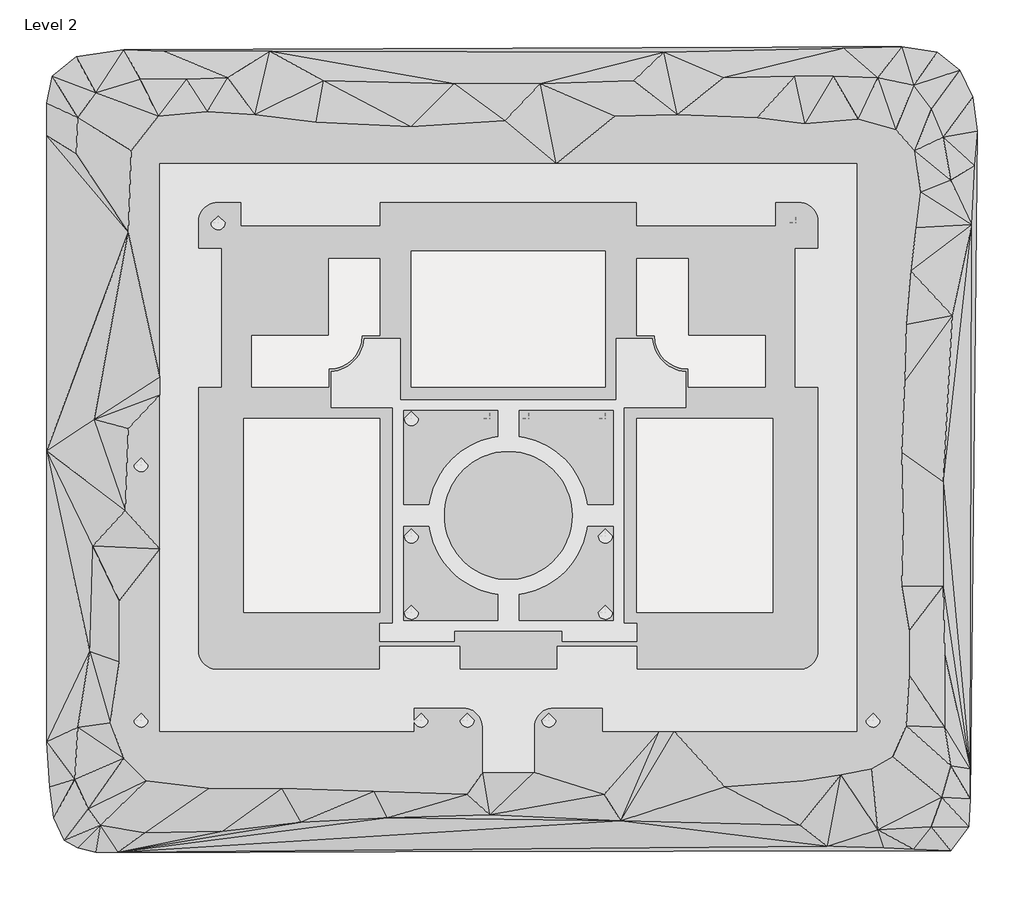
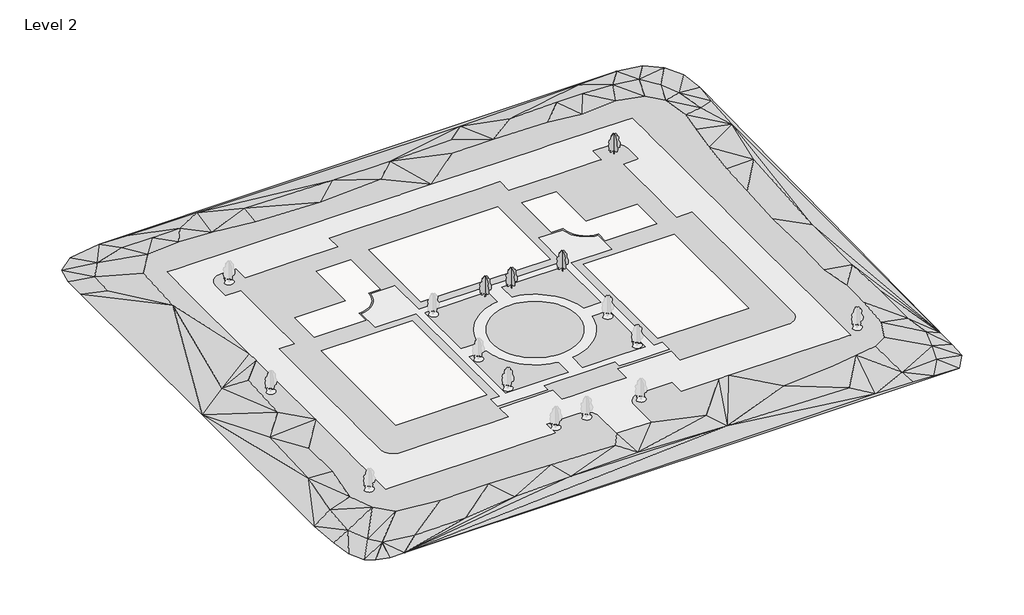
# One storey, part 2 of 2: 4 geographic elements, 1 proxy.
"""IFC4 building model written with IfcOpenShell, lengths in millimetres."""

from ifc_helpers import new_model, si_unit, origin, place, context, project, spatial, triangles, transform, mapped, element, save
from components import rpc_tree_deciduous_red_ash_25_14781bec

model = new_model("IFC4")

# Units and contexts
model_context = context("Model", 3, world=origin())
ifc_project = project(units=[si_unit("LENGTHUNIT", "METRE", prefix="MILLI")], contexts=[model_context])

# Site, building, storey
site = spatial("IfcSite", under=ifc_project)
building = spatial("IfcBuilding", under=site)
storey = spatial("IfcBuildingStorey", under=building, Name="Level 2", Elevation=3047.9999999)

# Proxy
placement = place(None, origin())
element("IfcBuildingElementProxy", 1, Name="Building Element Proxy", at=placement, inside=storey, context=model_context, shape_type="Tessellation", body=[
    triangles([(-199970.6219238, -770.6450392, 0.0), (-199970.6219238, -75600.9481934, 0.0), (-199970.6219238, -144783.6834961, 0.0), (-199264.6743164, -155372.8790039, 0.0), (-198205.762207, -162785.3195801, 0.0), (-195734.9362793, -168079.917334, 0.0), (-192558.1813477, -169844.7770508, 0.0), (-188322.5143066, -170903.6891602, 0.0), (-183027.9165527, -170903.6891602, 0.0), (14637.0472687, -170550.7246582, 0.0), (18872.7247742, -164903.1624023, 0.0), (19225.6974152, -158196.6694336, 0.0), (20990.5629456, 288.2743554, 0.0), (19931.6438599, 8406.6566345, 0.0), (16754.8854401, 14760.1734741, 0.0), (11460.2888489, 18995.8509796, 0.0), (2988.9332565, 20407.7427063, 0.0), (-181616.0213379, 19701.7974243, 0.0), (-192911.1644531, 17936.9307312, 0.0), (-198558.726709, 13348.2805847, 0.0), (-199970.6219238, 6994.7637451, 0.0), (-153151.1541504, -67955.1218628, 3048.0), (-120842.3541504, -67955.1218628, 3048.0), (-120842.3541504, -113979.9265137, 3048.0), (-140079.1613525, -113979.9265137, 3048.0), (-152049.379541, -113979.9265137, 3048.0), (-153151.1541504, -113979.9265137, 3048.0), (-153151.1541504, -113064.9684082, 3048.0), (-153151.1541504, -99875.92229, 3048.0), (-67349.9588013, -28178.7218628, 3048.0), (-67349.9588013, -60487.5218628, 3048.0), (-81900.5357666, -60487.5218628, 3048.0), (-94745.3238281, -60487.5218628, 3048.0), (-108258.9733887, -60487.5218628, 3048.0), (-113374.7541504, -60487.5218628, 3048.0), (-113374.7541504, -28178.7218628, 3048.0), (-110993.3460205, -28178.7218628, 3048.0), (-92962.2791748, -28178.7218628, 3048.0), (-86679.0999023, -28178.7218628, 3048.0), (-27573.5588013, -113979.9265137, 3048.0), (-30077.1524963, -113979.9265137, 3048.0), (-59882.3588013, -113979.9265137, 3048.0), (-59882.3588013, -67955.1218628, 3048.0), (-27573.5588013, -67955.1218628, 3048.0), (-27573.5588013, -111100.790625, 3048.0), (-120842.3541504, -30007.5218628, 3048.0), (-120842.3541504, -48295.5218628, 3048.0), (-125109.5541504, -48295.5218628, 3048.0), (-125159.383667, -49182.8165405, 3048.0), (-125308.248999, -50058.9537598, 3048.0), (-125554.2711914, -50912.9155884, 3048.0), (-125894.3620605, -51733.963147, 3048.0), (-126324.2334961, -52511.7714844, 3048.0), (-126838.4997803, -53236.5551514, 3048.0), (-127430.6775879, -53899.2030762, 3048.0), (-128093.3255127, -54491.3808838, 3048.0), (-128818.1091797, -55005.6425171, 3048.0), (-129595.9128662, -55435.5186035, 3048.0), (-130416.9604248, -55775.6094727, 3048.0), (-131270.9269043, -56021.631665, 3048.0), (-132147.0594727, -56170.4923462, 3048.0), (-133034.3541504, -56220.3218628, 3048.0), (-133034.3541504, -60487.5218628, 3048.0), (-151322.3541504, -60487.5218628, 3048.0), (-151322.3541504, -48295.5218628, 3048.0), (-133034.3541504, -48295.5218628, 3048.0), (-133034.3541504, -30007.5218628, 3048.0), (-59882.3588013, -30007.5218628, 3048.0), (-52023.1268921, -30007.5218628, 3048.0), (-47690.3588013, -30007.5218628, 3048.0), (-47690.3588013, -33626.2753967, 3048.0), (-47690.3588013, -48295.5218628, 3048.0), (-30126.7308655, -48295.5218628, 3048.0), (-29402.3588013, -48295.5218628, 3048.0), (-29402.3588013, -48900.5221436, 3048.0), (-29402.3588013, -60487.5218628, 3048.0), (-47690.3588013, -60487.5218628, 3048.0), (-47690.3588013, -56220.3218628, 3048.0), (-48577.653479, -56170.4923462, 3048.0), (-49453.7906982, -56021.631665, 3048.0), (-50307.7525269, -55775.6094727, 3048.0), (-51128.8000854, -55435.5186035, 3048.0), (-51906.603772, -55005.6425171, 3048.0), (-52631.3920898, -54491.3808838, 3048.0), (-53294.0400146, -53899.2030762, 3048.0), (-53886.2178223, -53236.5551514, 3048.0), (-54400.4794556, -52511.7714844, 3048.0), (-54830.355542, -51733.963147, 3048.0), (-55170.4464111, -50912.9155884, 3048.0), (-55416.4686035, -50058.9537598, 3048.0), (-55565.3292847, -49182.8165405, 3048.0), (-55615.1588013, -48295.5218628, 3048.0), (-59882.3588013, -48295.5218628, 3048.0), (-115965.5541504, -63535.5218628, 3048.0), (-108001.017041, -63535.5218628, 3048.0), (-94913.5368164, -63535.5218628, 3048.0), (-81449.735376, -63535.5218628, 3048.0), (-64759.1588013, -63535.5218628, 3048.0), (-64759.1588013, -48905.1218628, 3048.0), (-56202.9601318, -48905.1218628, 3048.0), (-56096.6642944, -49768.622644, 3048.0), (-55903.0063477, -50616.8173828, 3048.0), (-55624.0001221, -51440.8880127, 3048.0), (-55262.5431152, -52232.2676147, 3048.0), (-54822.3978882, -52982.7380859, 3048.0), (-54308.131604, -53684.4999023, 3048.0), (-53725.0881226, -54330.255835, 3048.0), (-53079.3368408, -54913.2946655, 3048.0), (-52377.5750244, -55427.5609497, 3048.0), (-51627.1045532, -55867.7061768, 3048.0), (-50835.7249512, -56229.1631836, 3048.0), (-50011.6543213, -56508.1694092, 3048.0), (-49163.4595825, -56701.827356, 3048.0), (-48299.9588013, -56808.1231934, 3048.0), (-48299.9588013, -65364.3218628, 3048.0), (-62930.3588013, -65364.3218628, 3048.0), (-62930.3588013, -116570.7265137, 3048.0), (-59882.3588013, -116570.7265137, 3048.0), (-59882.3588013, -120837.9265137, 3048.0), (-72974.5410645, -120837.9265137, 3048.0), (-77560.7588013, -120837.9265137, 3048.0), (-77560.7588013, -118399.5265137, 3048.0), (-90362.3541504, -118399.5265137, 3048.0), (-97941.352002, -118399.5265137, 3048.0), (-103163.9541504, -118399.5265137, 3048.0), (-103163.9541504, -120689.163501, 3048.0), (-103163.9541504, -120837.9265137, 3048.0), (-120842.3541504, -120837.9265137, 3048.0), (-120842.3541504, -116570.7265137, 3048.0), (-117794.3541504, -116570.7265137, 3048.0), (-117794.3541504, -65364.3218628, 3048.0), (-132424.7541504, -65364.3218628, 3048.0), (-132424.7541504, -56808.1231934, 3048.0), (-131561.2533691, -56701.827356, 3048.0), (-130713.0632813, -56508.1694092, 3048.0), (-129888.9926514, -56229.1631836, 3048.0), (-129097.6083984, -55867.7061768, 3048.0), (-128347.1425781, -55427.5609497, 3048.0), (-127645.3807617, -54913.2946655, 3048.0), (-126999.6248291, -54330.255835, 3048.0), (-126416.5813477, -53684.4999023, 3048.0), (-125902.3150635, -52982.7380859, 3048.0), (-125462.1744873, -52232.2676147, 3048.0), (-125100.7174805, -51440.8880127, 3048.0), (-124821.7112549, -50616.8173828, 3048.0), (-124628.057959, -49768.622644, 3048.0), (-124521.7574707, -48905.1218628, 3048.0), (-115965.5541504, -48905.1218628, 3048.0), (-96458.3541504, -141259.5265137, 3048.0), (-96504.8908447, -140608.8592529, 3048.0), (-96643.5521484, -139971.4376953, 3048.0), (-96871.5196289, -139360.2470947, 3048.0), (-97184.1424072, -138787.7145996, 3048.0), (-97575.0673828, -138265.4953125, 3048.0), (-98036.332251, -137804.2304443, 3048.0), (-98558.5515381, -137413.3147705, 3048.0), (-98978.0329102, -137184.2496826, 3048.0), (-99131.0840332, -137100.6826904, 3048.0), (-99742.2746338, -136872.7245117, 3048.0), (-100379.6961914, -136734.0539063, 3048.0), (-101030.3541504, -136687.5265137, 3048.0), (-101809.9809814, -136687.5265137, 3048.0), (-112765.1541504, -136687.5265137, 3048.0), (-112765.1541504, -142173.9265137, 3048.0), (-113948.1331055, -142173.9265137, 3048.0), (-118098.4844238, -142173.9265137, 3048.0), (-134914.7603027, -142173.9265137, 3048.0), (-141364.1619873, -142173.9265137, 3048.0), (-155924.3616211, -142173.9265137, 3048.0), (-161579.2164551, -142173.9265137, 3048.0), (-171062.6189941, -142173.9265137, 3048.0), (-173115.5541504, -142173.9265137, 3048.0), (-173115.5541504, -139265.5924072, 3048.0), (-173115.5541504, -133177.6942383, 3048.0), (-173115.5541504, -122301.5302002, 3048.0), (-173115.5541504, -118406.8004883, 3048.0), (-173115.5541504, -98940.6863525, 3048.0), (-173115.5541504, -96485.831543, 3048.0), (-173115.5541504, -78335.3859375, 3048.0), (-173115.5541504, -62355.6543457, 3048.0), (-173115.5541504, -58140.023291, 3048.0), (-173115.5541504, -19343.470459, 3048.0), (-173115.5541504, -16797.6432953, 3048.0), (-173115.5541504, -12340.9792786, 3048.0), (-173115.5541504, -7452.3218628, 3048.0), (-169916.8098633, -7452.3218628, 3048.0), (-163060.4655762, -7452.3218628, 3048.0), (-152868.4644287, -7452.3218628, 3048.0), (-142112.3953857, -7452.3218628, 3048.0), (-121728.1977539, -7452.3218628, 3048.0), (-112747.4808105, -7452.3218628, 3048.0), (-91818.4420166, -7452.3218628, 3048.0), (-90362.3541504, -7452.3218628, 3048.0), (-89744.5965088, -7452.3218628, 3048.0), (-79028.6831543, -7452.3218628, 3048.0), (-55510.2210205, -7452.3218628, 3048.0), (-52788.1732178, -7452.3218628, 3048.0), (-40375.0099731, -7452.3218628, 3048.0), (-37615.0575073, -7452.3218628, 3048.0), (-23395.2487244, -7452.3218628, 3048.0), (-20332.1054626, -7452.3218628, 3048.0), (-13137.2725342, -7452.3218628, 3048.0), (-9769.8966797, -7452.3218628, 3048.0), (-7609.1582199, -7452.3218628, 3048.0), (-7609.1582199, -9469.011557, 3048.0), (-7609.1582199, -15160.5374084, 3048.0), (-7609.1582199, -20175.2708496, 3048.0), (-7609.1582199, -29394.9894836, 3048.0), (-7609.1582199, -34925.2565735, 3048.0), (-7609.1582199, -45786.2285156, 3048.0), (-7609.1582199, -48692.6557617, 3048.0), (-7609.1582199, -63543.7213623, 3048.0), (-7609.1582199, -67102.3320557, 3048.0), (-7609.1582199, -88141.7269043, 3048.0), (-7609.1582199, -103111.0178467, 3048.0), (-7609.1582199, -109311.1696289, 3048.0), (-7609.1582199, -119744.5513916, 3048.0), (-7609.1582199, -128757.108252, 3048.0), (-7609.1582199, -135897.4445068, 3048.0), (-7609.1582199, -141262.8472412, 3048.0), (-7609.1582199, -142173.9265137, 3048.0), (-8520.228772, -142173.9265137, 3048.0), (-12021.3371613, -142173.9265137, 3048.0), (-14368.7717834, -142173.9265137, 3048.0), (-27380.2333923, -142173.9265137, 3048.0), (-30015.5818359, -142173.9265137, 3048.0), (-50988.4086548, -142173.9265137, 3048.0), (-54593.6723145, -142173.9265137, 3048.0), (-67959.5588013, -142173.9265137, 3048.0), (-67959.5588013, -136687.5265137, 3048.0), (-70630.3399658, -136687.5265137, 3048.0), (-79694.3541504, -136687.5265137, 3048.0), (-80345.0214111, -136734.0539063, 3048.0), (-80982.4429688, -136872.7245117, 3048.0), (-81593.6335693, -137100.6826904, 3048.0), (-82166.1660645, -137413.3147705, 3048.0), (-82688.3853516, -137804.2304443, 3048.0), (-83149.640918, -138265.4953125, 3048.0), (-83540.5658936, -138787.7145996, 3048.0), (-83853.1979736, -139360.2470947, 3048.0), (-84081.1561523, -139971.4376953, 3048.0), (-84219.8174561, -140608.8592529, 3048.0), (-84266.3541504, -141259.5265137, 3048.0), (-84266.3541504, -151927.5265137, 3048.0), (-90362.3541504, -151927.5265137, 3048.0), (-96458.3541504, -151927.5265137, 3048.0), (-120842.3541504, -16596.3218628, 3048.0), (-120842.3541504, -22082.7218628, 3048.0), (-135421.6781982, -22082.7218628, 3048.0), (-151061.086377, -22082.7218628, 3048.0), (-153760.7541504, -22082.7218628, 3048.0), (-153760.7541504, -16596.3218628, 3048.0), (-159399.5541504, -16596.3218628, 3048.0), (-160050.2307129, -16642.8585571, 3048.0), (-160687.6429688, -16781.5198608, 3048.0), (-161298.8428711, -17009.4838531, 3048.0), (-161871.3660645, -17322.1112823, 3048.0), (-162393.5853516, -17713.0350952, 3048.0), (-162854.840918, -18174.2988007, 3048.0), (-163245.7751953, -18696.5122742, 3048.0), (-163558.3886719, -19269.0447693, 3048.0), (-163786.3561523, -19880.2400208, 3048.0), (-163925.0267578, -20517.6592529, 3048.0), (-163971.5541504, -21168.3218628, 3048.0), (-163971.5541504, -27569.1218628, 3048.0), (-158485.1541504, -27569.1218628, 3048.0), (-158485.1541504, -34220.483313, 3048.0), (-158485.1541504, -46724.2270752, 3048.0), (-158485.1541504, -60487.5218628, 3048.0), (-163971.5541504, -60487.5218628, 3048.0), (-163971.5541504, -88201.2767578, 3048.0), (-163971.5541504, -104079.330835, 3048.0), (-163971.5541504, -109289.2825928, 3048.0), (-163971.5541504, -122971.5265137, 3048.0), (-163925.0267578, -123622.1844727, 3048.0), (-163786.3561523, -124259.6060303, 3048.0), (-163558.3886719, -124870.7966309, 3048.0), (-163245.7751953, -125443.329126, 3048.0), (-162854.840918, -125965.5484131, 3048.0), (-162393.5853516, -126426.8132813, 3048.0), (-161871.3660645, -126817.7289551, 3048.0), (-161298.8428711, -127130.3610352, 3048.0), (-160687.6429688, -127358.3192139, 3048.0), (-160050.2307129, -127496.9898193, 3048.0), (-159399.5541504, -127543.5265137, 3048.0), (-147842.1479736, -127543.5265137, 3048.0), (-135716.2462646, -127543.5265137, 3048.0), (-127508.0124023, -127543.5265137, 3048.0), (-120842.3541504, -127543.5265137, 3048.0), (-120842.3541504, -122057.1265137, 3048.0), (-103048.1844727, -122057.1265137, 3048.0), (-101944.7541504, -122057.1265137, 3048.0), (-101944.7541504, -127543.5265137, 3048.0), (-98445.9909668, -127543.5265137, 3048.0), (-90362.3541504, -127543.5265137, 3048.0), (-78779.9541504, -127543.5265137, 3048.0), (-78779.9541504, -122057.1265137, 3048.0), (-72794.2171875, -122057.1265137, 3048.0), (-59882.3588013, -122057.1265137, 3048.0), (-59882.3588013, -127543.5265137, 3048.0), (-41871.5883911, -127543.5265137, 3048.0), (-34741.3910522, -127543.5265137, 3048.0), (-21325.1588013, -127543.5265137, 3048.0), (-20674.493866, -127496.9898193, 3048.0), (-20037.0769592, -127358.3192139, 3048.0), (-19872.0754028, -127296.7787842, 3048.0), (-19425.880545, -127130.3610352, 3048.0), (-18853.3480499, -126817.7289551, 3048.0), (-18331.1345764, -126426.8132813, 3048.0), (-17869.870871, -125965.5484131, 3048.0), (-17478.9470581, -125443.329126, 3048.0), (-17166.3207916, -124870.7966309, 3048.0), (-16938.3556366, -124259.6060303, 3048.0), (-16799.6943329, -123622.1844727, 3048.0), (-16753.1576385, -122971.5265137, 3048.0), (-16753.1576385, -122722.3696289, 3048.0), (-16753.1576385, -111345.1664063, 3048.0), (-16753.1576385, -98657.3269043, 3048.0), (-16753.1576385, -60487.5218628, 3048.0), (-22239.5588013, -60487.5218628, 3048.0), (-22239.5588013, -54882.9383789, 3048.0), (-22239.5588013, -46411.753125, 3048.0), (-22239.5588013, -35337.7267456, 3048.0), (-22239.5588013, -28669.615155, 3048.0), (-22239.5588013, -27569.1218628, 3048.0), (-16753.1576385, -27569.1218628, 3048.0), (-16753.1576385, -26553.1513184, 3048.0), (-16753.1576385, -21168.3218628, 3048.0), (-16799.6943329, -20517.6592529, 3048.0), (-16938.3556366, -19880.2400208, 3048.0), (-17166.3207916, -19269.0447693, 3048.0), (-17478.9470581, -18696.5122742, 3048.0), (-17869.870871, -18174.2988007, 3048.0), (-18331.1345764, -17713.0350952, 3048.0), (-18853.3480499, -17322.1112823, 3048.0), (-19425.880545, -17009.4838531, 3048.0), (-20037.0769592, -16781.5198608, 3048.0), (-20674.493866, -16642.8585571, 3048.0), (-21325.1588013, -16596.3218628, 3048.0), (-26963.9588013, -16596.3218628, 3048.0), (-26963.9588013, -17204.3033569, 3048.0), (-26963.9588013, -22082.7218628, 3048.0), (-27869.6965393, -22082.7218628, 3048.0), (-36760.488739, -22082.7218628, 3048.0), (-43016.1185303, -22082.7218628, 3048.0), (-59882.3588013, -22082.7218628, 3048.0), (-59882.3588013, -16596.3218628, 3048.0), (-68080.4816528, -16596.3218628, 3048.0), (-88392.1767334, -16596.3218628, 3048.0), (-92323.0716797, -16596.3218628, 3048.0), (-111973.5931641, -16596.3218628, 3048.0), (-92800.7541504, -65973.9218628, 3048.0), (-95048.1053467, -65973.9218628, 3048.0), (-107794.6482422, -65973.9218628, 3048.0), (-115355.9541504, -65973.9218628, 3048.0), (-115355.9541504, -88529.1265137, 3048.0), (-109101.9823975, -88529.1265137, 3048.0), (-108874.6474365, -87170.8838379, 3048.0), (-108549.0021973, -85832.807373, 3048.0), (-108126.7768066, -84522.0036621, 3048.0), (-107610.2129883, -83245.4211182, 3048.0), (-107002.0547607, -82009.8500244, 3048.0), (-106508.6988281, -81168.3851074, 3048.0), (-106305.529834, -80821.8574219, 3048.0), (-105524.3403076, -79687.7312988, 3048.0), (-104662.6254639, -78613.5177979, 3048.0), (-103724.9803711, -77604.900293, 3048.0), (-102716.3628662, -76667.2505493, 3048.0), (-101642.1493652, -75805.5403564, 3048.0), (-100508.0232422, -75024.3508301, 3048.0), (-99320.0213379, -74327.8259033, 3048.0), (-98084.4595459, -73719.6676758, 3048.0), (-96807.877002, -73203.1038574, 3048.0), (-95497.073291, -72780.8784668, 3048.0), (-95422.7708496, -72762.7958496, 3048.0), (-94158.9968262, -72455.2332275, 3048.0), (-92800.7541504, -72227.8982666, 3048.0), (-92800.7541504, -115961.1265137, 3048.0), (-92800.7541504, -109707.145459, 3048.0), (-94158.9968262, -109479.810498, 3048.0), (-95497.073291, -109154.1652588, 3048.0), (-96807.877002, -108731.9398682, 3048.0), (-97394.7156006, -108494.475293, 3048.0), (-98084.4595459, -108215.3760498, 3048.0), (-99320.0213379, -107607.2178223, 3048.0), (-100508.0232422, -106910.6928955, 3048.0), (-101642.1493652, -106129.5033691, 3048.0), (-102716.3628662, -105267.7978271, 3048.0), (-103724.9803711, -104330.1434326, 3048.0), (-104630.9436768, -103355.6168701, 3048.0), (-104662.6254639, -103321.5259277, 3048.0), (-105524.3403076, -102247.3124268, 3048.0), (-106305.529834, -101113.1863037, 3048.0), (-107002.0547607, -99925.1937012, 3048.0), (-107610.2129883, -98689.6226074, 3048.0), (-108126.7768066, -97413.0400635, 3048.0), (-108549.0021973, -96102.2363525, 3048.0), (-108874.6474365, -94764.1598877, 3048.0), (-109101.9823975, -93405.9265137, 3048.0), (-115355.9541504, -93405.9265137, 3048.0), (-115355.9541504, -115961.1265137, 3048.0), (-103564.1064697, -115961.1265137, 3048.0), (-97806.7834717, -115961.1265137, 3048.0), (-105602.3541504, -90967.5265137, 3048.0), (-105552.9432129, -92193.8330566, 3048.0), (-105405.0080566, -93412.1865967, 3048.0), (-105159.5067627, -94614.6899414, 3048.0), (-104818.0578369, -95793.538916, 3048.0), (-104382.8471924, -96941.0967773, 3048.0), (-103856.7118652, -98049.9035156, 3048.0), (-103243.0562988, -99112.7781738, 3048.0), (-102545.8616455, -100122.8374512, 3048.0), (-101769.6578613, -101073.5143066, 3048.0), (-100919.4771973, -101958.6509766, 3048.0), (-100000.8262939, -102772.4989746, 3048.0), (-99019.6675781, -103509.7935059, 3048.0), (-97982.3541504, -104165.7534668, 3048.0), (-97179.0915527, -104587.3370361, 3048.0), (-96895.6297852, -104736.1093506, 3048.0), (-95766.5359131, -105217.1683594, 3048.0), (-94602.3930176, -105605.8144043, 3048.0), (-93410.754126, -105899.5360107, 3048.0), (-92199.3396973, -106096.4077148, 3048.0), (-90976.0097168, -106195.1644775, 3048.0), (-89748.7078857, -106195.1644775, 3048.0), (-88525.3779053, -106096.4077148, 3048.0), (-87313.9634766, -105899.5360107, 3048.0), (-86122.324585, -105605.8144043, 3048.0), (-84958.1816895, -105217.1683594, 3048.0), (-83829.0878174, -104736.1093506, 3048.0), (-82742.3541504, -104165.7534668, 3048.0), (-81705.0500244, -103509.7935059, 3048.0), (-80723.8913086, -102772.4989746, 3048.0), (-79805.2404053, -101958.6509766, 3048.0), (-78955.0504395, -101073.5143066, 3048.0), (-78178.8466553, -100122.8374512, 3048.0), (-77481.6613037, -99112.7781738, 3048.0), (-76868.0103882, -98049.9035156, 3048.0), (-76469.2486816, -97209.5362061, 3048.0), (-76341.8704102, -96941.0967773, 3048.0), (-75906.6644165, -95793.538916, 3048.0), (-75565.206189, -94614.6899414, 3048.0), (-75319.7141968, -93412.1865967, 3048.0), (-75171.7743896, -92193.8330566, 3048.0), (-75122.3588013, -90967.5265137, 3048.0), (-75171.7743896, -89741.2106689, 3048.0), (-75319.7141968, -88522.8571289, 3048.0), (-75565.206189, -87320.3537842, 3048.0), (-75906.6644165, -86141.5048096, 3048.0), (-76341.8704102, -84993.9469482, 3048.0), (-76868.0103882, -83885.14021, 3048.0), (-77481.6613037, -82822.2655518, 3048.0), (-78178.8466553, -81812.2062744, 3048.0), (-78872.1438721, -80963.076709, 3048.0), (-78955.0504395, -80861.5294189, 3048.0), (-79805.2404053, -79976.392749, 3048.0), (-80723.8913086, -79162.544751, 3048.0), (-81705.0500244, -78425.2502197, 3048.0), (-82742.3541504, -77769.2949097, 3048.0), (-83829.0878174, -77198.9390259, 3048.0), (-84958.1816895, -76717.8753662, 3048.0), (-86122.324585, -76329.2246704, 3048.0), (-87313.9634766, -76035.5123657, 3048.0), (-88525.3779053, -75838.6406616, 3048.0), (-89748.7078857, -75739.879248, 3048.0), (-90976.0097168, -75739.879248, 3048.0), (-92199.3396973, -75838.6406616, 3048.0), (-93410.754126, -76035.5123657, 3048.0), (-94602.3930176, -76329.2246704, 3048.0), (-95638.683252, -76675.1895996, 3048.0), (-95766.5359131, -76717.8753662, 3048.0), (-96895.6297852, -77198.9390259, 3048.0), (-97982.3541504, -77769.2949097, 3048.0), (-99019.6675781, -78425.2502197, 3048.0), (-100000.8262939, -79162.544751, 3048.0), (-100919.4771973, -79976.392749, 3048.0), (-101769.6578613, -80861.5294189, 3048.0), (-102545.8616455, -81812.2062744, 3048.0), (-103243.0562988, -82822.2655518, 3048.0), (-103856.7118652, -83885.14021, 3048.0), (-104382.8471924, -84993.9469482, 3048.0), (-104818.0578369, -86141.5048096, 3048.0), (-105159.5067627, -87320.3537842, 3048.0), (-105405.0080566, -88522.8571289, 3048.0), (-105552.9432129, -89741.2106689, 3048.0), (-87923.9541504, -65973.9218628, 3048.0), (-87923.9541504, -72227.8982666, 3048.0), (-86565.7207764, -72455.2332275, 3048.0), (-85227.6443115, -72780.8784668, 3048.0), (-83916.8406006, -73203.1038574, 3048.0), (-82640.2580566, -73719.6676758, 3048.0), (-81404.6869629, -74327.8259033, 3048.0), (-80216.6943604, -75024.3508301, 3048.0), (-79697.6190674, -75381.8917969, 3048.0), (-79082.5682373, -75805.5403564, 3048.0), (-78008.3500854, -76667.2505493, 3048.0), (-76999.7372314, -77604.900293, 3048.0), (-76062.0874878, -78613.5177979, 3048.0), (-75200.3772949, -79687.7312988, 3048.0), (-74419.1877686, -80821.8574219, 3048.0), (-73722.6628418, -82009.8500244, 3048.0), (-73114.5046143, -83245.4211182, 3048.0), (-72597.9407959, -84522.0036621, 3048.0), (-72175.7154053, -85832.807373, 3048.0), (-71850.070166, -87170.8838379, 3048.0), (-71622.7352051, -88529.1265137, 3048.0), (-65368.7588013, -88529.1265137, 3048.0), (-65368.7588013, -65973.9218628, 3048.0), (-81089.0876221, -65973.9218628, 3048.0), (-87923.9541504, -115961.1265137, 3048.0), (-73695.8365723, -115961.1265137, 3048.0), (-65368.7588013, -115961.1265137, 3048.0), (-65368.7588013, -93405.9265137, 3048.0), (-71622.7352051, -93405.9265137, 3048.0), (-71850.070166, -94764.1598877, 3048.0), (-72175.7154053, -96102.2363525, 3048.0), (-72597.9407959, -97413.0400635, 3048.0), (-73114.5046143, -98689.6226074, 3048.0), (-73722.6628418, -99925.1937012, 3048.0), (-74419.1877686, -101113.1863037, 3048.0), (-75200.3772949, -102247.3124268, 3048.0), (-75642.6107666, -102798.599707, 3048.0), (-76062.0874878, -103321.5259277, 3048.0), (-76999.7372314, -104330.1434326, 3048.0), (-78008.3500854, -105267.7978271, 3048.0), (-79082.5682373, -106129.5033691, 3048.0), (-80216.6943604, -106910.6928955, 3048.0), (-81404.6869629, -107607.2178223, 3048.0), (-82640.2580566, -108215.3760498, 3048.0), (-83916.8406006, -108731.9398682, 3048.0), (-85227.6443115, -109154.1652588, 3048.0), (-86565.7207764, -109479.810498, 3048.0), (-87923.9541504, -109707.145459, 3048.0), (-172085.7379395, 19348.8236206, 0.0), (-147024.6536865, 19348.8236206, 0.0), (-53486.7677856, 18995.8509796, 0.0), (-10777.018927, 20054.771228, 0.0), (20284.6176636, -7830.1081055, 0.0), (19578.6700562, -21949.0323486, 0.0), (19225.6974152, -151137.2026611, 0.0), (5812.718454, -170197.7601563, 0.0), (-1246.744249, -169844.7770508, 0.0), (-14659.7237915, -169491.8125488, 0.0), (-192911.1644531, -5006.322908, 1524.0), (-192558.1813477, 3465.0326843, 1524.0), (-188322.5143066, 9465.5757202, 1524.0), (-177733.3187988, 12642.33414, 1524.0), (-166791.1401855, 12642.33414, 1524.0), (-156907.8922852, 12995.306781, 1524.0), (-134317.6153564, 12289.361499, 1524.0), (-103255.9857422, 11583.4150543, 1524.0), (-82783.542334, 11583.4150543, 1524.0), (-60546.2299072, 12289.361499, 1524.0), (-39367.8435425, 12995.306781, 1524.0), (-22425.1335205, 13348.2805847, 1524.0), (-13247.8309021, 13348.2805847, 1524.0), (-2658.6368477, 12995.306781, 1524.0), (5812.718454, 11230.4412506, 1524.0), (10048.3959595, 5582.8714371, 1524.0), (12872.1817383, -1123.6181889, 1524.0), (14637.0472687, -11359.8391663, 1524.0), (14990.0199097, -43480.3925171, 1524.0), (12872.1817383, -83013.3887695, 1524.0), (12872.1817383, -107721.5085205, 1524.0), (13225.1543793, -123958.2662842, 1524.0), (13225.1543793, -141253.9547607, 1524.0), (14637.0472687, -150431.2550537, 1524.0), (12519.2079346, -157843.6863281, 1524.0), (10048.3959595, -164903.1624023, 1524.0), (-2658.6368477, -165609.0914062, 1524.0), (-21013.2406311, -164550.1792969, 1524.0), (-63722.9894897, -163491.2671875, 1524.0), (-94784.6237549, -162079.3719727, 1524.0), (-119139.7697021, -162785.3195801, 1524.0), (-139612.2131104, -163844.2316895, 1524.0), (-158319.7875, -165962.0745117, 1524.0), (-176674.3880859, -166315.0390137, 1524.0), (-187263.5835937, -164550.1792969, 1524.0), (-190087.3740234, -160667.4767578, 1524.0), (-193264.1289551, -153608.0099854, 1524.0), (-192558.1813477, -141253.9547607, 1524.0), (-189734.390918, -123252.3279785, 1524.0), (-189028.4619141, -98191.2344238, 1524.0), (-188675.4788086, -68188.5122681, 1524.0), (-180557.090625, -23713.8990417, 3048.0), (-179851.1430176, -4300.3764633, 3048.0), (-173497.6331543, 3818.005616, 3048.0), (-161849.5255371, 4876.9249924, 3048.0), (-150554.3824219, 4170.9788383, 3048.0), (-136082.484375, 2406.1131626, 3048.0), (-113492.1981445, 1347.1937862, 3048.0), (-91254.8950195, 2759.0862396, 3048.0), (-65134.8800537, 3818.005616, 3048.0), (-50310.0082031, 4170.9788383, 3048.0), (-31249.4600098, 3465.0326843, 3048.0), (-19954.3215454, 2053.1400856, 3048.0), (-7247.2878662, 3112.059462, 3048.0), (1577.0408031, 641.2474869, 3048.0), (6165.6916763, -4300.3764633, 3048.0), (7577.5839844, -14183.6237823, 3048.0), (6518.6648987, -22654.9799561, 3048.0), (5106.7720093, -32891.2016602, 3048.0), (4047.8529236, -45598.2353394, 3048.0), (3694.8797012, -59011.2119751, 3048.0), (2988.9332565, -75953.9219971, 3048.0), (3341.9064789, -93249.6104736, 3048.0), (2988.9332565, -107721.5085205, 3048.0), (4753.7990776, -118310.7040283, 3048.0), (4753.7990776, -128899.8902344, 3048.0), (4047.8529236, -140900.980957, 3048.0), (871.0945765, -148313.4122314, 3048.0), (-4070.5294464, -151137.2026611, 3048.0), (-11482.9653717, -152549.097876, 3048.0), (-20307.2930237, -153960.9837891, 3048.0), (-39014.8697388, -155372.8790039, 3048.0), (-67605.6920288, -157137.7387207, 3048.0), (-100079.2215088, -157137.7387207, 3048.0), (-122316.5339355, -156431.7911133, 3048.0), (-144200.8632568, -155725.8528076, 3048.0), (-161496.5424316, -155725.8528076, 3048.0), (-176321.423584, -153960.9837891, 3048.0), (-181616.0213379, -148666.3860352, 3048.0), (-184792.7762695, -140195.0333496, 3048.0), (-182674.9334473, -125723.1353027, 3048.0), (-182674.9334473, -111251.2372559, 3048.0), (-181263.0382324, -89719.8724365, 3048.0), (-180557.090625, -70306.3550903, 3048.0)], [[5, 6, 579], [5, 580, 4], [578, 6, 7], [8, 9, 578], [621, 579, 578], [579, 6, 578], [577, 578, 9], [580, 5, 579], [9, 576, 577], [578, 7, 8], [577, 621, 578], [580, 622, 581], [580, 579, 622], [580, 581, 3], [581, 622, 623], [582, 581, 623], [3, 581, 582], [622, 172, 623], [580, 3, 4], [172, 173, 623], [172, 621, 171], [174, 623, 173], [171, 621, 620], [622, 621, 172], [579, 621, 622], [174, 624, 623], [621, 577, 620], [620, 576, 619], [576, 620, 577], [620, 169, 170], [169, 620, 619], [169, 619, 168], [576, 575, 619], [620, 170, 171], [575, 574, 618], [575, 576, 9], [167, 168, 619], [619, 618, 167], [167, 618, 166], [618, 617, 164], [619, 575, 618], [9, 574, 575], [284, 285, 274], [287, 25, 286], [285, 286, 27], [288, 25, 287], [166, 618, 165], [618, 164, 165], [290, 288, 289], [618, 574, 617], [574, 572, 573], [624, 625, 582], [274, 275, 282], [624, 582, 623], [279, 280, 277], [174, 175, 624], [277, 278, 279], [277, 280, 276], [276, 281, 275], [273, 274, 27], [176, 625, 624], [626, 583, 177], [625, 583, 582], [625, 177, 583], [583, 626, 2], [176, 624, 175], [28, 272, 273], [177, 178, 626], [271, 272, 29], [177, 625, 176], [178, 179, 626], [281, 276, 280], [3, 582, 2], [283, 274, 282], [274, 283, 284], [285, 27, 274], [27, 28, 273], [286, 26, 27], [286, 25, 26], [290, 127, 128], [24, 129, 130], [288, 129, 25], [290, 291, 127], [128, 129, 288], [290, 128, 288], [394, 401, 393], [131, 24, 130], [24, 25, 129], [362, 356, 361], [29, 272, 28], [356, 357, 358], [399, 400, 398], [400, 397, 398], [271, 29, 22], [394, 395, 400], [282, 275, 281], [359, 356, 358], [163, 164, 162], [2, 582, 583], [161, 157, 160], [161, 149, 157], [156, 157, 155], [164, 246, 149], [159, 157, 158], [159, 160, 157], [162, 149, 161], [126, 127, 292], [126, 124, 125], [384, 402, 403], [292, 127, 291], [389, 401, 402], [292, 124, 126], [386, 402, 385], [385, 402, 384], [124, 292, 294], [293, 294, 292], [402, 386, 387], [153, 157, 152], [157, 154, 155], [157, 153, 154], [157, 151, 152], [246, 573, 245], [573, 246, 617], [157, 150, 151], [573, 244, 245], [157, 149, 150], [164, 149, 162], [381, 403, 380], [382, 383, 403], [381, 382, 403], [403, 383, 384], [380, 378, 379], [378, 380, 403], [123, 124, 295], [294, 295, 124], [297, 123, 295], [617, 574, 573], [397, 400, 396], [396, 400, 395], [401, 390, 391], [393, 401, 392], [392, 401, 391], [401, 394, 400], [405, 406, 418], [418, 404, 405], [418, 406, 407], [418, 485, 404], [418, 484, 485], [484, 418, 483], [482, 483, 470], [408, 418, 407], [418, 408, 409], [387, 388, 402], [418, 419, 420], [418, 420, 421], [425, 418, 424], [424, 418, 423], [418, 422, 423], [418, 421, 422], [418, 470, 483], [411, 412, 418], [409, 410, 418], [411, 418, 410], [412, 413, 418], [417, 418, 416], [416, 418, 415], [418, 414, 415], [413, 414, 418], [482, 470, 481], [439, 470, 418], [388, 389, 402], [389, 390, 401], [360, 356, 359], [164, 617, 246], [574, 9, 572], [626, 584, 2], [626, 627, 584], [584, 180, 181], [180, 584, 627], [627, 179, 180], [2, 584, 585], [22, 269, 270], [269, 22, 64], [269, 64, 65], [22, 132, 64], [626, 179, 627], [585, 181, 182], [264, 265, 266], [266, 251, 264], [181, 585, 584], [268, 65, 267], [250, 251, 266], [67, 250, 267], [264, 251, 253], [250, 266, 267], [67, 267, 65], [269, 65, 268], [2, 585, 1], [133, 63, 132], [132, 63, 64], [62, 133, 61], [133, 62, 63], [134, 61, 133], [134, 135, 60], [136, 59, 135], [135, 59, 60], [58, 136, 137], [134, 60, 61], [59, 136, 58], [250, 67, 249], [65, 66, 67], [57, 138, 56], [57, 58, 137], [56, 139, 55], [139, 56, 138], [55, 139, 140], [138, 57, 137], [67, 248, 249], [131, 132, 23], [271, 22, 270], [586, 184, 185], [586, 544, 585], [545, 544, 586], [544, 545, 1], [586, 185, 587], [1, 585, 544], [586, 585, 184], [587, 186, 588], [183, 184, 585], [182, 183, 585], [587, 185, 186], [21, 545, 20], [545, 21, 1], [20, 546, 19], [546, 20, 545], [19, 546, 18], [586, 546, 545], [587, 548, 547], [588, 548, 587], [18, 547, 534], [18, 546, 547], [534, 547, 548], [18, 534, 535], [548, 549, 534], [547, 546, 587], [586, 587, 546], [258, 261, 257], [260, 258, 259], [258, 260, 261], [261, 262, 257], [257, 262, 256], [256, 262, 263], [255, 256, 263], [254, 255, 264], [264, 255, 263], [253, 254, 264], [188, 588, 187], [549, 588, 589], [588, 549, 548], [187, 588, 186], [588, 188, 589], [189, 590, 589], [190, 590, 189], [589, 550, 535], [550, 589, 590], [535, 550, 551], [589, 535, 549], [550, 590, 591], [189, 589, 188], [549, 535, 534], [251, 252, 253], [18, 535, 17], [363, 355, 362], [355, 356, 362], [363, 364, 355], [478, 479, 470], [470, 477, 478], [477, 470, 476], [365, 366, 355], [355, 366, 354], [131, 23, 24], [366, 367, 354], [355, 364, 365], [369, 370, 354], [368, 369, 354], [367, 368, 354], [354, 370, 371], [480, 470, 479], [132, 22, 23], [473, 474, 470], [473, 470, 472], [471, 472, 470], [475, 470, 474], [469, 470, 468], [470, 467, 468], [467, 470, 466], [466, 470, 465], [475, 476, 470], [372, 353, 354], [374, 375, 353], [373, 374, 353], [372, 373, 353], [353, 377, 352], [377, 353, 376], [376, 353, 375], [372, 354, 371], [481, 470, 480], [470, 464, 465], [141, 54, 55], [54, 142, 53], [142, 54, 141], [53, 142, 143], [52, 143, 144], [143, 52, 53], [51, 144, 145], [144, 51, 52], [51, 145, 50], [148, 47, 147], [50, 146, 49], [50, 145, 146], [49, 147, 48], [147, 49, 146], [48, 147, 47], [248, 46, 36], [67, 46, 248], [351, 247, 248], [148, 46, 47], [55, 140, 141], [94, 35, 148], [35, 36, 148], [36, 46, 148], [95, 96, 33], [95, 35, 94], [33, 34, 95], [95, 34, 35], [37, 38, 350], [551, 591, 592], [591, 190, 191], [191, 192, 591], [591, 551, 550], [36, 37, 351], [36, 351, 248], [192, 193, 592], [592, 193, 194], [192, 592, 591], [194, 195, 592], [37, 350, 351], [551, 592, 552], [38, 349, 350], [190, 591, 590], [356, 360, 361], [535, 551, 536], [426, 418, 425], [232, 241, 242], [232, 242, 243], [232, 239, 240], [238, 232, 237], [239, 232, 238], [232, 240, 241], [232, 243, 229], [532, 533, 510], [427, 428, 418], [418, 428, 429], [530, 531, 510], [439, 429, 430], [429, 439, 418], [532, 510, 531], [431, 439, 430], [295, 296, 297], [235, 236, 232], [234, 232, 233], [232, 234, 235], [236, 237, 232], [298, 121, 297], [121, 298, 120], [297, 121, 122], [123, 297, 122], [511, 529, 530], [526, 527, 511], [528, 511, 527], [511, 525, 526], [524, 525, 511], [523, 524, 511], [523, 512, 522], [529, 511, 528], [511, 530, 510], [523, 511, 512], [229, 243, 244], [439, 431, 432], [439, 433, 434], [439, 434, 435], [439, 435, 436], [470, 439, 454], [438, 439, 437], [439, 436, 437], [441, 439, 440], [452, 453, 454], [454, 456, 457], [456, 454, 455], [470, 454, 462], [441, 442, 439], [449, 450, 454], [451, 452, 454], [454, 450, 451], [448, 449, 454], [454, 439, 448], [432, 433, 439], [445, 439, 444], [439, 443, 444], [445, 446, 439], [513, 517, 518], [513, 516, 517], [519, 512, 513], [520, 521, 512], [448, 439, 447], [508, 499, 500], [439, 446, 447], [504, 505, 507], [502, 503, 507], [504, 507, 503], [508, 501, 507], [439, 442, 443], [521, 522, 512], [120, 298, 119], [458, 454, 457], [572, 571, 615], [571, 572, 543], [615, 227, 572], [572, 228, 616], [571, 614, 615], [616, 244, 573], [571, 613, 614], [613, 571, 543], [224, 613, 223], [613, 224, 614], [223, 613, 222], [543, 570, 613], [615, 614, 226], [572, 9, 543], [224, 225, 614], [228, 229, 616], [231, 229, 230], [231, 232, 229], [572, 227, 228], [227, 615, 226], [41, 301, 302], [40, 302, 303], [614, 225, 226], [229, 244, 616], [542, 541, 570], [541, 542, 543], [568, 612, 570], [612, 222, 613], [569, 570, 541], [568, 570, 569], [541, 10, 569], [542, 570, 543], [11, 568, 569], [567, 568, 12], [12, 568, 11], [540, 12, 13], [612, 568, 611], [11, 569, 10], [543, 9, 541], [540, 567, 12], [222, 612, 221], [219, 220, 610], [218, 219, 609], [221, 610, 220], [611, 567, 610], [567, 611, 568], [610, 566, 609], [566, 610, 567], [609, 566, 565], [609, 219, 610], [567, 540, 566], [610, 221, 611], [612, 611, 221], [540, 565, 566], [612, 613, 570], [9, 10, 541], [217, 218, 609], [299, 300, 301], [299, 119, 298], [118, 119, 301], [117, 118, 42], [299, 301, 119], [304, 305, 306], [306, 307, 308], [306, 315, 303], [41, 42, 301], [304, 306, 303], [40, 303, 316], [515, 513, 514], [515, 516, 513], [116, 42, 43], [42, 118, 301], [302, 40, 41], [44, 115, 43], [116, 117, 42], [45, 40, 317], [512, 519, 520], [308, 309, 306], [311, 306, 310], [313, 306, 312], [306, 311, 312], [313, 314, 306], [315, 316, 303], [608, 217, 609], [306, 314, 315], [316, 317, 40], [606, 214, 215], [44, 45, 318], [215, 216, 607], [318, 45, 317], [608, 564, 607], [564, 608, 565], [564, 606, 607], [606, 564, 563], [214, 606, 605], [607, 606, 215], [565, 540, 564], [608, 607, 216], [217, 608, 216], [540, 563, 564], [310, 306, 309], [565, 608, 609], [507, 505, 506], [540, 539, 563], [573, 572, 616], [606, 563, 605], [461, 462, 454], [463, 470, 462], [464, 470, 463], [459, 460, 454], [493, 494, 509], [460, 461, 454], [458, 459, 454], [486, 489, 509], [487, 488, 486], [486, 488, 489], [489, 490, 509], [491, 492, 509], [32, 96, 97], [31, 32, 97], [492, 493, 509], [490, 491, 509], [495, 509, 494], [96, 32, 33], [508, 496, 497], [496, 508, 495], [508, 509, 495], [497, 498, 508], [501, 508, 500], [508, 498, 499], [43, 115, 116], [502, 507, 501], [98, 31, 97], [513, 518, 519], [111, 112, 81], [110, 111, 82], [81, 112, 80], [82, 111, 81], [112, 113, 80], [114, 77, 78], [114, 79, 113], [79, 114, 78], [113, 79, 80], [115, 77, 114], [115, 76, 77], [31, 99, 30], [99, 100, 93], [93, 68, 99], [93, 100, 92], [99, 68, 30], [90, 101, 102], [91, 92, 100], [90, 91, 101], [91, 100, 101], [102, 103, 89], [346, 68, 69], [349, 39, 348], [349, 38, 39], [593, 552, 195], [552, 592, 195], [39, 30, 348], [346, 347, 348], [346, 30, 68], [553, 593, 594], [593, 195, 196], [593, 553, 552], [348, 30, 346], [552, 553, 536], [107, 85, 106], [85, 107, 108], [105, 106, 86], [86, 106, 85], [105, 86, 87], [110, 83, 109], [83, 110, 82], [109, 84, 108], [84, 109, 83], [108, 84, 85], [88, 89, 103], [88, 104, 87], [90, 102, 89], [103, 104, 88], [594, 536, 553], [196, 197, 594], [198, 594, 197], [536, 594, 554], [104, 105, 87], [594, 593, 196], [69, 345, 346], [99, 31, 98], [552, 536, 551], [75, 76, 321], [71, 72, 73], [321, 76, 320], [320, 44, 319], [75, 322, 74], [75, 321, 322], [73, 74, 323], [320, 76, 44], [115, 44, 76], [322, 323, 74], [70, 71, 344], [70, 344, 345], [343, 344, 324], [344, 71, 323], [325, 343, 324], [328, 339, 342], [342, 343, 325], [325, 328, 342], [324, 344, 323], [71, 73, 323], [330, 331, 335], [211, 212, 604], [603, 210, 211], [604, 212, 213], [44, 318, 319], [603, 211, 604], [605, 563, 604], [602, 209, 603], [209, 210, 603], [562, 603, 604], [602, 603, 562], [563, 562, 604], [604, 213, 605], [328, 325, 327], [330, 336, 329], [329, 337, 328], [325, 326, 327], [208, 602, 601], [206, 207, 601], [601, 207, 208], [539, 601, 602], [602, 562, 539], [209, 602, 208], [562, 563, 539], [539, 600, 601], [339, 328, 338], [339, 341, 342], [341, 339, 340], [328, 337, 338], [332, 333, 334], [335, 336, 330], [331, 334, 335], [336, 337, 329], [334, 331, 332], [198, 199, 595], [595, 554, 594], [595, 199, 200], [595, 200, 596], [554, 595, 555], [594, 198, 595], [201, 202, 596], [555, 596, 556], [555, 595, 596], [597, 556, 596], [555, 556, 537], [596, 202, 597], [596, 200, 201], [554, 555, 537], [599, 205, 600], [597, 203, 204], [599, 204, 205], [599, 598, 204], [205, 206, 600], [561, 560, 599], [561, 600, 539], [560, 538, 13], [538, 560, 561], [13, 538, 539], [560, 13, 14], [561, 539, 538], [561, 599, 600], [559, 599, 560], [597, 598, 557], [598, 597, 204], [537, 557, 17], [537, 556, 557], [558, 17, 557], [17, 535, 537], [557, 598, 558], [556, 597, 557], [559, 14, 15], [559, 598, 599], [558, 15, 16], [15, 558, 559], [558, 16, 17], [559, 558, 598], [560, 14, 559], [597, 202, 203], [601, 600, 206], [554, 537, 536], [539, 540, 13], [69, 70, 345], [605, 213, 214], [537, 535, 536], [418, 426, 427]], closed=False),
])

# Geographic elements
rpc_tree_deciduous_red_ash_25_shape = rpc_tree_deciduous_red_ash_25_14781bec(model_context)
element("IfcGeographicElement", 2, ObjectType="RPC Tree - Deciduous : Red Ash - 25'", at=placement, inside=storey, context=model_context, shape_type="MappedRepresentation", body=[
    mapped(rpc_tree_deciduous_red_ash_25_shape, transform((-94781.958026, -67955.1218987, 3048.0), x_axis=(1.0, 0.0, 0.0), y_axis=(0.0, 1.0, 0.0), z_axis=(0.0, 0.0, 1.0))),
])
element("IfcGeographicElement", 3, ObjectType="RPC Tree - Deciduous : Red Ash - 25'", at=placement, inside=storey, context=model_context, shape_type="MappedRepresentation", body=[
    mapped(rpc_tree_deciduous_red_ash_25_shape, transform((-85485.558026, -67955.1218987, 3048.0), x_axis=(1.0, 0.0, 0.0), y_axis=(0.0, 1.0, 0.0), z_axis=(0.0, 0.0, 1.0))),
])
element("IfcGeographicElement", 4, ObjectType="RPC Tree - Deciduous : Red Ash - 25'", at=placement, inside=storey, context=model_context, shape_type="MappedRepresentation", body=[
    mapped(rpc_tree_deciduous_red_ash_25_shape, transform((-67349.958026, -67955.1218987, 3048.0), x_axis=(1.0, 0.0, 0.0), y_axis=(0.0, 1.0, 0.0), z_axis=(0.0, 0.0, 1.0))),
])
element("IfcGeographicElement", 5, ObjectType="RPC Tree - Deciduous : Red Ash - 25'", at=placement, inside=storey, context=model_context, shape_type="MappedRepresentation", body=[
    mapped(rpc_tree_deciduous_red_ash_25_shape, transform((-22087.158026, -21473.1218987, 3048.0), x_axis=(1.0, 0.0, 0.0), y_axis=(0.0, 1.0, 0.0), z_axis=(0.0, 0.0, 1.0))),
])

save(model, "model.ifc")
